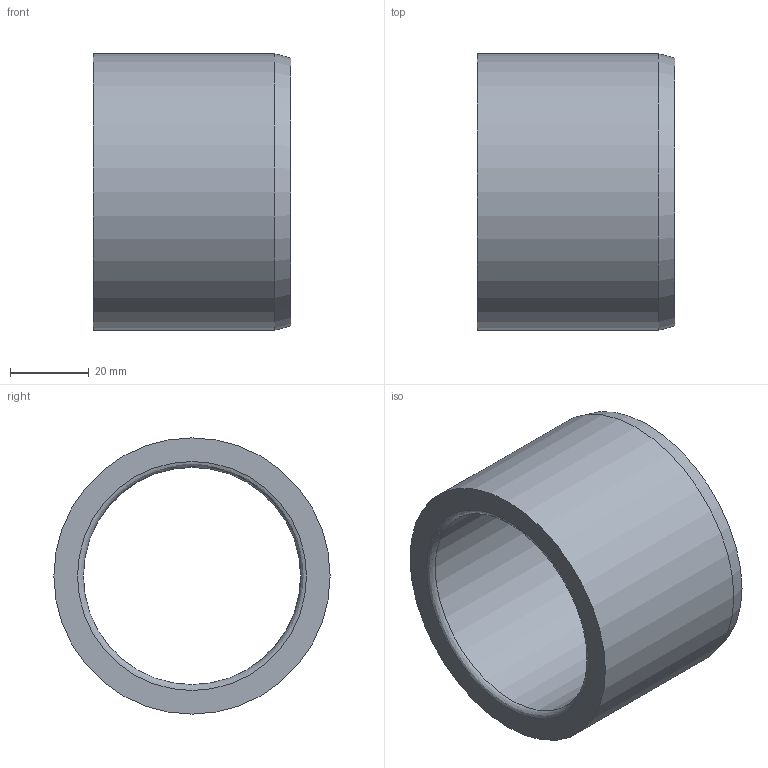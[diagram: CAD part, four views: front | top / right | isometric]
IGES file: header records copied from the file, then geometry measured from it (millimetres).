
Global section: file name: BG04.557050.ipt; native system: Autodesk Inventor 2021; preprocessor: unknown; author: SM; date: 20211217.163706; units: millimetre
Bounding box: 50 x 70 x 70 mm (x, y, z)
Volume: 72995.6 mm3; surface area: 22144.7 mm2
Topology: 1 solids, 1 shells, 7 faces, 18 edges, 13 vertices
Faces by surface type: revolution 3, plane 2, cylinder 1, cone 1
Full cylindrical faces by diameter (mm): 70 x1
